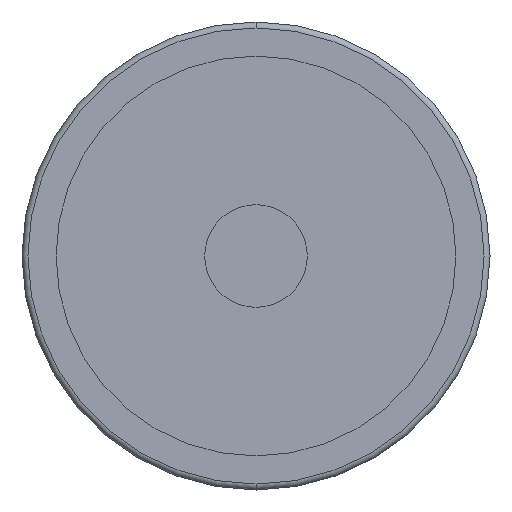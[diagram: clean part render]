
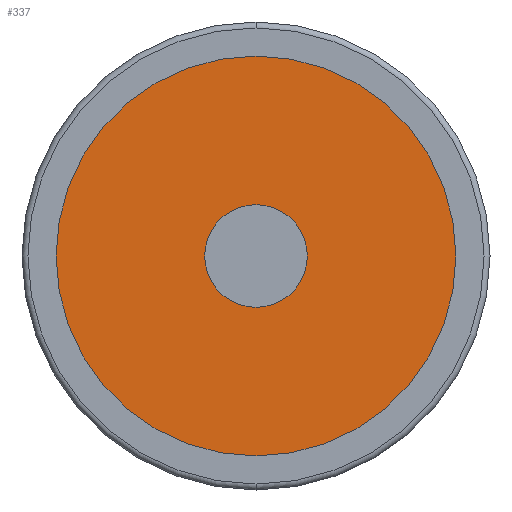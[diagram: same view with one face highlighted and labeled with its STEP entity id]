
A CAD part, front view. The second image highlights one B-rep face of the part: STEP entity #337.
In plain terms, the highlighted planar face has unit normal (0, -1, 0).
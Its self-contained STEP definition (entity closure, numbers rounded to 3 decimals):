
#32 = EDGE_CURVE ( 'NONE', #1167, #1029, #697, .T. ) ;
#33 = DIRECTION ( 'NONE',  ( 0., -1., 0. ) ) ;
#65 = AXIS2_PLACEMENT_3D ( 'NONE', #1318, #377, #1898 ) ;
#67 = AXIS2_PLACEMENT_3D ( 'NONE', #1745, #33, #410 ) ;
#230 = EDGE_LOOP ( 'NONE', ( #996, #411 ) ) ;
#282 = CARTESIAN_POINT ( 'NONE',  ( 0., 4.5, 0. ) ) ;
#337 = ADVANCED_FACE ( 'NONE', ( #765, #1528 ), #624, .T. ) ;
#344 = CIRCLE ( 'NONE', #67, 8. ) ;
#377 = DIRECTION ( 'NONE',  ( 0., -1., 0. ) ) ;
#403 = CARTESIAN_POINT ( 'NONE',  ( 8., 4.5, 0. ) ) ;
#410 = DIRECTION ( 'NONE',  ( 1., 0., 0. ) ) ;
#411 = ORIENTED_EDGE ( 'NONE', *, *, #850, .T. ) ;
#483 = EDGE_LOOP ( 'NONE', ( #1118, #1446 ) ) ;
#622 = CIRCLE ( 'NONE', #1585, 34.25 ) ;
#624 = PLANE ( 'NONE',  #1931 ) ;
#694 = VERTEX_POINT ( 'NONE', #1043 ) ;
#697 = CIRCLE ( 'NONE', #1619, 8. ) ;
#765 = FACE_OUTER_BOUND ( 'NONE', #230, .T. ) ;
#850 = EDGE_CURVE ( 'NONE', #1515, #694, #1897, .T. ) ;
#976 = DIRECTION ( 'NONE',  ( 0., -1., 0. ) ) ;
#996 = ORIENTED_EDGE ( 'NONE', *, *, #1124, .T. ) ;
#1029 = VERTEX_POINT ( 'NONE', #403 ) ;
#1043 = CARTESIAN_POINT ( 'NONE',  ( -34.25, 4.5, 0. ) ) ;
#1081 = DIRECTION ( 'NONE',  ( 1., 0., 0. ) ) ;
#1118 = ORIENTED_EDGE ( 'NONE', *, *, #1331, .F. ) ;
#1124 = EDGE_CURVE ( 'NONE', #694, #1515, #622, .T. ) ;
#1167 = VERTEX_POINT ( 'NONE', #2366 ) ;
#1318 = CARTESIAN_POINT ( 'NONE',  ( 0., 4.5, 0. ) ) ;
#1331 = EDGE_CURVE ( 'NONE', #1029, #1167, #344, .T. ) ;
#1425 = CARTESIAN_POINT ( 'NONE',  ( 0., 4.5, 0. ) ) ;
#1446 = ORIENTED_EDGE ( 'NONE', *, *, #32, .F. ) ;
#1515 = VERTEX_POINT ( 'NONE', #2232 ) ;
#1528 = FACE_BOUND ( 'NONE', #483, .T. ) ;
#1564 = DIRECTION ( 'NONE',  ( 1., 0., 0. ) ) ;
#1585 = AXIS2_PLACEMENT_3D ( 'NONE', #1425, #1794, #1081 ) ;
#1603 = DIRECTION ( 'NONE',  ( 1., 0., 0. ) ) ;
#1619 = AXIS2_PLACEMENT_3D ( 'NONE', #282, #2053, #1603 ) ;
#1732 = CARTESIAN_POINT ( 'NONE',  ( -34.25, 4.5, 0. ) ) ;
#1745 = CARTESIAN_POINT ( 'NONE',  ( 0., 4.5, 0. ) ) ;
#1794 = DIRECTION ( 'NONE',  ( 0., -1., 0. ) ) ;
#1897 = CIRCLE ( 'NONE', #65, 34.25 ) ;
#1898 = DIRECTION ( 'NONE',  ( 1., 0., 0. ) ) ;
#1931 = AXIS2_PLACEMENT_3D ( 'NONE', #1732, #976, #1564 ) ;
#2053 = DIRECTION ( 'NONE',  ( 0., -1., 0. ) ) ;
#2232 = CARTESIAN_POINT ( 'NONE',  ( 34.25, 4.5, 0. ) ) ;
#2366 = CARTESIAN_POINT ( 'NONE',  ( -8., 4.5, 0. ) ) ;
